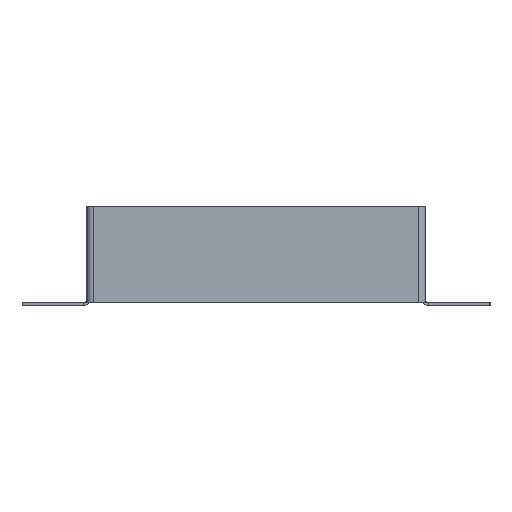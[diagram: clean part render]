
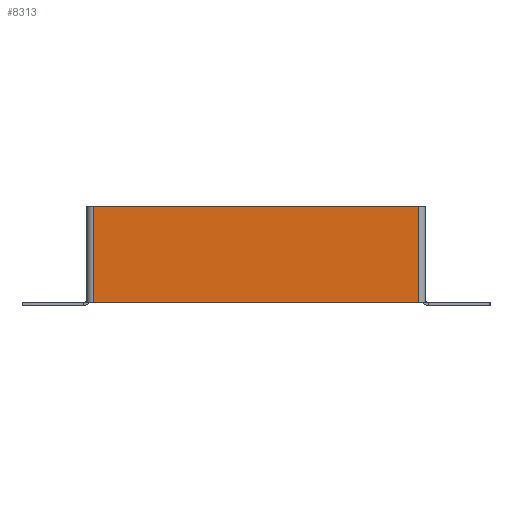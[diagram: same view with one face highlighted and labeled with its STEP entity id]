
A CAD part, front view. The second image highlights one B-rep face of the part: STEP entity #8313.
In plain terms, the highlighted planar face has unit normal (0, -1, 0).
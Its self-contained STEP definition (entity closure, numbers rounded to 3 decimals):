
#294 = CARTESIAN_POINT ( 'NONE',  ( -98., -2., 0. ) ) ;
#545 = FACE_OUTER_BOUND ( 'NONE', #2731, .T. ) ;
#878 = ORIENTED_EDGE ( 'NONE', *, *, #2831, .F. ) ;
#924 = EDGE_CURVE ( 'NONE', #8024, #8338, #7389, .T. ) ;
#1309 = VERTEX_POINT ( 'NONE', #3755 ) ;
#1394 = CARTESIAN_POINT ( 'NONE',  ( -98., -2., -58. ) ) ;
#1448 = LINE ( 'NONE', #9058, #8136 ) ;
#1862 = EDGE_CURVE ( 'NONE', #1309, #8338, #1448, .T. ) ;
#1900 = ORIENTED_EDGE ( 'NONE', *, *, #1862, .F. ) ;
#1939 = VERTEX_POINT ( 'NONE', #8414 ) ;
#2731 = EDGE_LOOP ( 'NONE', ( #9177, #1900, #8074, #878 ) ) ;
#2792 = CARTESIAN_POINT ( 'NONE',  ( -100., -2., 0. ) ) ;
#2831 = EDGE_CURVE ( 'NONE', #8024, #1939, #7162, .T. ) ;
#2853 = LINE ( 'NONE', #5696, #3416 ) ;
#3416 = VECTOR ( 'NONE', #4287, 1000. ) ;
#3755 = CARTESIAN_POINT ( 'NONE',  ( 98., -2., -58. ) ) ;
#4287 = DIRECTION ( 'NONE',  ( 0., 0., 1. ) ) ;
#4701 = DIRECTION ( 'NONE',  ( -1., 0., 0. ) ) ;
#5498 = CARTESIAN_POINT ( 'NONE',  ( -98., -2., 0. ) ) ;
#5524 = PLANE ( 'NONE',  #6269 ) ;
#5630 = DIRECTION ( 'NONE',  ( 1., 0., 0. ) ) ;
#5696 = CARTESIAN_POINT ( 'NONE',  ( 98., -2., -58. ) ) ;
#5769 = DIRECTION ( 'NONE',  ( 0., 1., 0. ) ) ;
#6187 = VECTOR ( 'NONE', #8970, 1000. ) ;
#6269 = AXIS2_PLACEMENT_3D ( 'NONE', #6509, #5769, #8514 ) ;
#6509 = CARTESIAN_POINT ( 'NONE',  ( 0., -2., 0. ) ) ;
#6589 = EDGE_CURVE ( 'NONE', #1309, #1939, #2853, .T. ) ;
#7162 = LINE ( 'NONE', #2792, #8283 ) ;
#7389 = LINE ( 'NONE', #5498, #6187 ) ;
#8024 = VERTEX_POINT ( 'NONE', #294 ) ;
#8074 = ORIENTED_EDGE ( 'NONE', *, *, #6589, .T. ) ;
#8136 = VECTOR ( 'NONE', #4701, 1000. ) ;
#8283 = VECTOR ( 'NONE', #5630, 1000. ) ;
#8313 = ADVANCED_FACE ( 'NONE', ( #545 ), #5524, .F. ) ;
#8338 = VERTEX_POINT ( 'NONE', #1394 ) ;
#8414 = CARTESIAN_POINT ( 'NONE',  ( 98., -2., 0. ) ) ;
#8514 = DIRECTION ( 'NONE',  ( 0., 0., 1. ) ) ;
#8970 = DIRECTION ( 'NONE',  ( 0., 0., -1. ) ) ;
#9058 = CARTESIAN_POINT ( 'NONE',  ( -100., -2., -58. ) ) ;
#9177 = ORIENTED_EDGE ( 'NONE', *, *, #924, .T. ) ;
